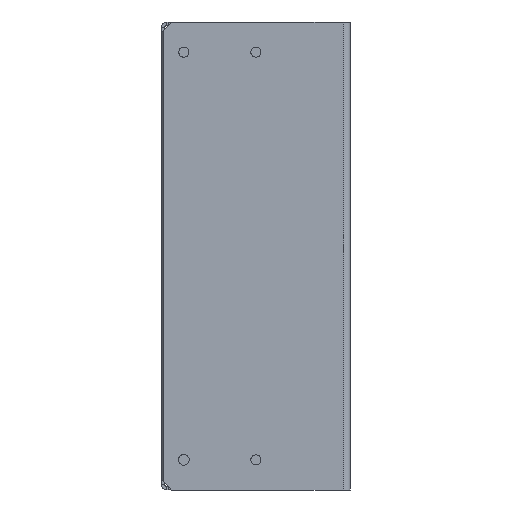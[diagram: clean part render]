
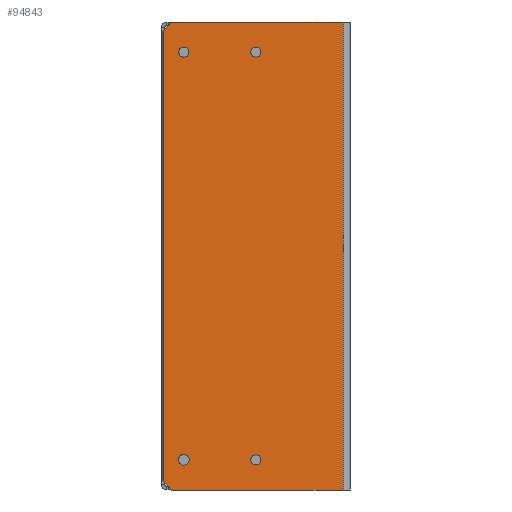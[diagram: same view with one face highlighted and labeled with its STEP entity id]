
A CAD part, left-side view. The second image highlights one B-rep face of the part: STEP entity #94843.
In plain terms, the highlighted planar face has unit normal (-1, 0, 0).
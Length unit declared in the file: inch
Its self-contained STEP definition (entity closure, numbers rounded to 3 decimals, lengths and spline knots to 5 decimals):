
#58109 = CARTESIAN_POINT ( 'NONE',  ( 1.33437, 0.70227, -0.187 ) ) ;
#58129 = CARTESIAN_POINT ( 'NONE',  ( 1.33437, 0.70227, -3.218 ) ) ;
#58713 = CARTESIAN_POINT ( 'NONE',  ( 1.33437, 1.23817, -3.2159 ) ) ;
#58741 = CARTESIAN_POINT ( 'NONE',  ( 1.33437, 0.70227, -0.262 ) ) ;
#58809 = DIRECTION ( 'NONE',  ( 0., 0., 1. ) ) ;
#58810 = DIRECTION ( 'NONE',  ( 1., 0., 0. ) ) ;
#58811 = CARTESIAN_POINT ( 'NONE',  ( 1.33437, 0.70227, -0.2245 ) ) ;
#58812 = AXIS2_PLACEMENT_3D ( 'NONE', #58811, #58810, #58809 ) ;
#58813 = CIRCLE ( 'NONE', #58812, 0.0375 ) ;
#58852 = CARTESIAN_POINT ( 'NONE',  ( 1.33437, 0.70227, -3.293 ) ) ;
#58869 = AXIS2_PLACEMENT_3D ( 'NONE', #58943, #58942, #58941 ) ;
#58870 = CIRCLE ( 'NONE', #58869, 0.0375 ) ;
#58889 = CIRCLE ( 'NONE', #58940, 0.0396 ) ;
#58906 = DIRECTION ( 'NONE',  ( 0., 0., 1. ) ) ;
#58907 = DIRECTION ( 'NONE',  ( 1., 0., 0. ) ) ;
#58909 = CARTESIAN_POINT ( 'NONE',  ( 1.33437, 1.23817, -0.2245 ) ) ;
#58918 = CIRCLE ( 'NONE', #58939, 0.0375 ) ;
#58932 = DIRECTION ( 'NONE',  ( 0., 0., 1. ) ) ;
#58933 = DIRECTION ( 'NONE',  ( 1., 0., 0. ) ) ;
#58934 = CARTESIAN_POINT ( 'NONE',  ( 1.33437, 1.23817, -3.2555 ) ) ;
#58937 = CARTESIAN_POINT ( 'NONE',  ( 1.33437, 1.23817, -3.2951 ) ) ;
#58939 = AXIS2_PLACEMENT_3D ( 'NONE', #58909, #58907, #58906 ) ;
#58940 = AXIS2_PLACEMENT_3D ( 'NONE', #58934, #58933, #58932 ) ;
#58941 = DIRECTION ( 'NONE',  ( 0., 0., 1. ) ) ;
#58942 = DIRECTION ( 'NONE',  ( 1., 0., 0. ) ) ;
#58943 = CARTESIAN_POINT ( 'NONE',  ( 1.33437, 0.70227, -3.2555 ) ) ;
#58969 = CARTESIAN_POINT ( 'NONE',  ( 1.33437, 1.23817, -0.262 ) ) ;
#59007 = CARTESIAN_POINT ( 'NONE',  ( 1.33437, 1.23817, -0.187 ) ) ;
#65382 = CARTESIAN_POINT ( 'NONE',  ( 1.33437, 0.054, 0. ) ) ;
#65383 = CARTESIAN_POINT ( 'NONE',  ( 1.33437, 0.054, -3.48 ) ) ;
#65539 = DIRECTION ( 'NONE',  ( 0., 0., 1. ) ) ;
#65540 = VECTOR ( 'NONE', #65539, 39.37008 ) ;
#65544 = CARTESIAN_POINT ( 'NONE',  ( 1.33437, 0.054, -3.425 ) ) ;
#65545 = LINE ( 'NONE', #65544, #65540 ) ;
#66400 = DIRECTION ( 'NONE',  ( 1., 0., 0. ) ) ;
#66453 = DIRECTION ( 'NONE',  ( 0., 0., 1. ) ) ;
#66454 = AXIS2_PLACEMENT_3D ( 'NONE', #66463, #66400, #66453 ) ;
#66455 = CIRCLE ( 'NONE', #66454, 0.0375 ) ;
#66463 = CARTESIAN_POINT ( 'NONE',  ( 1.33437, 1.23817, -0.2245 ) ) ;
#66600 = DIRECTION ( 'NONE',  ( 0., 0., 1. ) ) ;
#66601 = DIRECTION ( 'NONE',  ( 1., 0., 0. ) ) ;
#66602 = CARTESIAN_POINT ( 'NONE',  ( 1.33437, 0.70227, -3.2555 ) ) ;
#66603 = AXIS2_PLACEMENT_3D ( 'NONE', #66602, #66601, #66600 ) ;
#66604 = CIRCLE ( 'NONE', #66603, 0.0375 ) ;
#66675 = DIRECTION ( 'NONE',  ( 0., 0., 1. ) ) ;
#66676 = DIRECTION ( 'NONE',  ( 1., 0., 0. ) ) ;
#66677 = CARTESIAN_POINT ( 'NONE',  ( 1.33437, 0.70227, -0.2245 ) ) ;
#66680 = AXIS2_PLACEMENT_3D ( 'NONE', #66677, #66676, #66675 ) ;
#66681 = CIRCLE ( 'NONE', #66680, 0.0375 ) ;
#66836 = CARTESIAN_POINT ( 'NONE',  ( 1.33437, 1.38817, -0.06 ) ) ;
#66871 = CARTESIAN_POINT ( 'NONE',  ( 1.33437, 1.23817, -3.2555 ) ) ;
#66885 = AXIS2_PLACEMENT_3D ( 'NONE', #66871, #66953, #66952 ) ;
#66888 = CIRCLE ( 'NONE', #66885, 0.0396 ) ;
#66925 = CARTESIAN_POINT ( 'NONE',  ( 1.33437, 1.32817, -3.48 ) ) ;
#66952 = DIRECTION ( 'NONE',  ( 0., 0., 1. ) ) ;
#66953 = DIRECTION ( 'NONE',  ( 1., 0., 0. ) ) ;
#66964 = CARTESIAN_POINT ( 'NONE',  ( 1.33437, 1.38817, -3.42 ) ) ;
#66975 = CARTESIAN_POINT ( 'NONE',  ( 1.33437, 1.32817, 0. ) ) ;
#67043 = DIRECTION ( 'NONE',  ( 0., -0.707, 0.707 ) ) ;
#67045 = VECTOR ( 'NONE', #67043, 39.37008 ) ;
#67050 = LINE ( 'NONE', #67052, #67045 ) ;
#67052 = CARTESIAN_POINT ( 'NONE',  ( 1.33437, 1.38817, -0.06 ) ) ;
#67255 = DIRECTION ( 'NONE',  ( 0., 0., 1. ) ) ;
#67256 = VECTOR ( 'NONE', #67255, 39.37008 ) ;
#67259 = LINE ( 'NONE', #67261, #67256 ) ;
#67261 = CARTESIAN_POINT ( 'NONE',  ( 1.33437, 1.38817, -3.42 ) ) ;
#67312 = PLANE ( 'NONE',  #67414 ) ;
#67373 = FACE_BOUND ( 'NONE', #94925, .T. ) ;
#67408 = DIRECTION ( 'NONE',  ( 0., 0., -1. ) ) ;
#67409 = DIRECTION ( 'NONE',  ( -1., 0., 0. ) ) ;
#67414 = AXIS2_PLACEMENT_3D ( 'NONE', #67422, #67409, #67408 ) ;
#67416 = FACE_OUTER_BOUND ( 'NONE', #94879, .T. ) ;
#67417 = FACE_BOUND ( 'NONE', #95005, .T. ) ;
#67419 = FACE_BOUND ( 'NONE', #94932, .T. ) ;
#67422 = CARTESIAN_POINT ( 'NONE',  ( 1.33437, -2.38006, -3.425 ) ) ;
#67423 = FACE_BOUND ( 'NONE', #94949, .T. ) ;
#67571 = DIRECTION ( 'NONE',  ( 0., -1., 0. ) ) ;
#67573 = VECTOR ( 'NONE', #67571, 39.37008 ) ;
#67574 = CARTESIAN_POINT ( 'NONE',  ( 1.33437, 1.32817, 0. ) ) ;
#67576 = LINE ( 'NONE', #67574, #67573 ) ;
#67614 = DIRECTION ( 'NONE',  ( 0., 1., 0. ) ) ;
#67615 = VECTOR ( 'NONE', #67614, 39.37008 ) ;
#67616 = CARTESIAN_POINT ( 'NONE',  ( 1.33437, -2.38006, -3.48 ) ) ;
#67624 = LINE ( 'NONE', #67616, #67615 ) ;
#73835 = CARTESIAN_POINT ( 'NONE',  ( 1.33437, 1.32817, -3.48 ) ) ;
#73838 = DIRECTION ( 'NONE',  ( 0., 0.707, 0.707 ) ) ;
#73846 = LINE ( 'NONE', #73835, #73855 ) ;
#73855 = VECTOR ( 'NONE', #73838, 39.37008 ) ;
#81392 = VERTEX_POINT ( 'NONE', #58129 ) ;
#81416 = VERTEX_POINT ( 'NONE', #58109 ) ;
#82320 = VERTEX_POINT ( 'NONE', #58713 ) ;
#82373 = VERTEX_POINT ( 'NONE', #58741 ) ;
#82406 = EDGE_CURVE ( 'NONE', #82373, #81416, #58813, .T. ) ;
#82527 = VERTEX_POINT ( 'NONE', #58852 ) ;
#82588 = EDGE_CURVE ( 'NONE', #82527, #81392, #58870, .T. ) ;
#82613 = EDGE_CURVE ( 'NONE', #82625, #82320, #58889, .T. ) ;
#82625 = VERTEX_POINT ( 'NONE', #58937 ) ;
#82738 = EDGE_CURVE ( 'NONE', #82819, #82980, #58918, .T. ) ;
#82819 = VERTEX_POINT ( 'NONE', #58969 ) ;
#82980 = VERTEX_POINT ( 'NONE', #59007 ) ;
#93718 = VERTEX_POINT ( 'NONE', #65383 ) ;
#93727 = VERTEX_POINT ( 'NONE', #65382 ) ;
#93814 = EDGE_CURVE ( 'NONE', #93718, #93727, #65545, .T. ) ;
#94481 = EDGE_CURVE ( 'NONE', #82980, #82819, #66455, .T. ) ;
#94527 = EDGE_CURVE ( 'NONE', #81392, #82527, #66604, .T. ) ;
#94557 = EDGE_CURVE ( 'NONE', #81416, #82373, #66681, .T. ) ;
#94640 = VERTEX_POINT ( 'NONE', #66836 ) ;
#94653 = EDGE_CURVE ( 'NONE', #82320, #82625, #66888, .T. ) ;
#94686 = VERTEX_POINT ( 'NONE', #66925 ) ;
#94693 = VERTEX_POINT ( 'NONE', #66964 ) ;
#94696 = VERTEX_POINT ( 'NONE', #66975 ) ;
#94721 = EDGE_CURVE ( 'NONE', #94640, #94696, #67050, .T. ) ;
#94771 = EDGE_CURVE ( 'NONE', #94693, #94640, #67259, .T. ) ;
#94843 = ADVANCED_FACE ( 'NONE', ( #67423, #67373, #67419, #67417, #67416 ), #67312, .T. ) ;
#94861 = ORIENTED_EDGE ( 'NONE', *, *, #82406, .T. ) ;
#94879 = EDGE_LOOP ( 'NONE', ( #94896, #94959, #94973, #94894, #94965, #94889 ) ) ;
#94885 = ORIENTED_EDGE ( 'NONE', *, *, #94481, .T. ) ;
#94889 = ORIENTED_EDGE ( 'NONE', *, *, #96772, .F. ) ;
#94894 = ORIENTED_EDGE ( 'NONE', *, *, #94721, .F. ) ;
#94896 = ORIENTED_EDGE ( 'NONE', *, *, #94922, .F. ) ;
#94922 = EDGE_CURVE ( 'NONE', #93718, #94686, #67624, .T. ) ;
#94925 = EDGE_LOOP ( 'NONE', ( #95017, #95026 ) ) ;
#94932 = EDGE_LOOP ( 'NONE', ( #95011, #94998 ) ) ;
#94938 = EDGE_CURVE ( 'NONE', #94696, #93727, #67576, .T. ) ;
#94949 = EDGE_LOOP ( 'NONE', ( #94861, #94950 ) ) ;
#94950 = ORIENTED_EDGE ( 'NONE', *, *, #94557, .T. ) ;
#94959 = ORIENTED_EDGE ( 'NONE', *, *, #93814, .T. ) ;
#94965 = ORIENTED_EDGE ( 'NONE', *, *, #94771, .F. ) ;
#94973 = ORIENTED_EDGE ( 'NONE', *, *, #94938, .F. ) ;
#94998 = ORIENTED_EDGE ( 'NONE', *, *, #94527, .T. ) ;
#95005 = EDGE_LOOP ( 'NONE', ( #95037, #94885 ) ) ;
#95011 = ORIENTED_EDGE ( 'NONE', *, *, #82588, .T. ) ;
#95017 = ORIENTED_EDGE ( 'NONE', *, *, #82613, .T. ) ;
#95026 = ORIENTED_EDGE ( 'NONE', *, *, #94653, .T. ) ;
#95037 = ORIENTED_EDGE ( 'NONE', *, *, #82738, .T. ) ;
#96772 = EDGE_CURVE ( 'NONE', #94686, #94693, #73846, .T. ) ;
